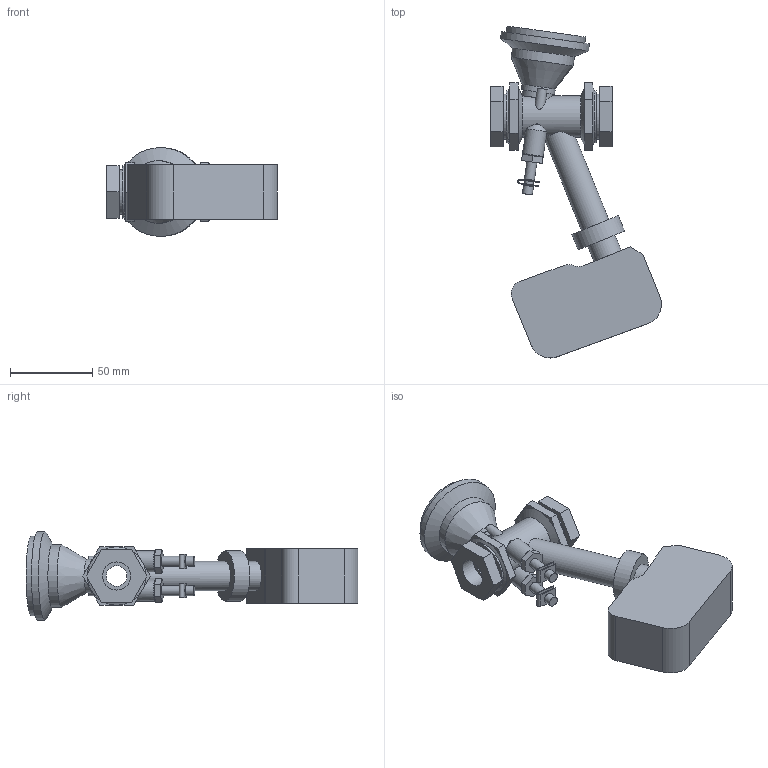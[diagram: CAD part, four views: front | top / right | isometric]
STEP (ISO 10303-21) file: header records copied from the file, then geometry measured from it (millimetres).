
FILE_DESCRIPTION(/* description */ ('VIC BALANCING AND CONTROL VALVE SERIES 7CP (FPT)-TA SLIDER 160 FAIL-SAFE','CAx-IF Rec.Pracs.---Representation and Presentation of Product Manufacturing Information (PMI)---4.0---2014-10-13'),/* implementation_level */ '2;1');
FILE_NAME(/* name */ 'C:\Users\Vjadhav\AppData\Roaming\Autodesk\ApplicationPlugins\Victaulic.Temp\A633\Victaulic_IPS_Valve Balancing Pressure Independent_TA Series 7CP (FPT)_Slider 160 Fail-Safe_0.375 (10).stp',/* time_stamp */ '2021-09-14T20:02:20+06:00',/* author */ ('Vjadhav'),/* organization */ ('Victaulic'),/* preprocessor_version */ 'ST-DEVELOPER v17.2',/* originating_system */ 'Autodesk Inventor 2019',/* authorisation */ '');
FILE_SCHEMA (('AP242_MANAGED_MODEL_BASED_3D_ENGINEERING_MIM_LF { 1 0 10303 442 1 1 4 }'));
Length unit declared in the file: inch
Products named in the file (2): 7CP_Slider 160 Fail-Safe-0.375; 7CP-0.375
Assembly tree (1 placements, depth 2):
  7CP_Slider 160 Fail-Safe-0.375
    7CP-0.375
Bounding box: 103.96 x 201.93 x 54.1 mm (x, y, z)
Volume: 241377.9 mm3; surface area: 47736.6 mm2
Topology: 1 solids, 1 shells, 174 faces, 432 edges, 288 vertices
Faces by surface type: plane 120, cylinder 46, cone 8
Full cylindrical faces by diameter (mm): 5.08 x6, 6.096 x6, 12.522 x2, 12.7 x2, 17.145 x3, 17.78 x2, 20.32 x1, 25.4 x1, 27.432 x2, 30.471 x1, 31.75 x2, 38.1 x1, 48.26 x1, 54.102 x1
Entity records: 5720 total; most frequent: CARTESIAN_POINT 1118, DIRECTION 944, ORIENTED_EDGE 864, EDGE_CURVE 432, AXIS2_PLACEMENT_3D 350, VERTEX_POINT 288, LINE 244, VECTOR 244
